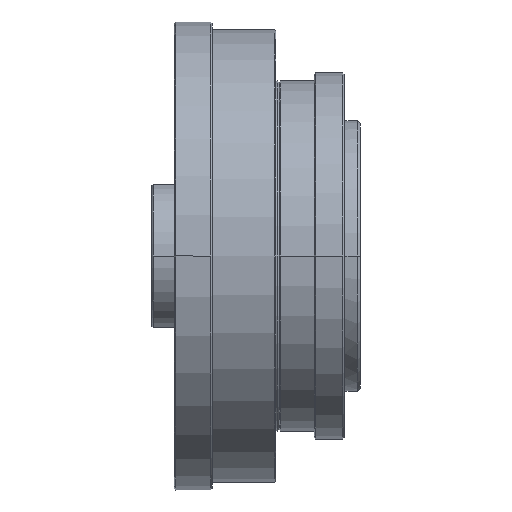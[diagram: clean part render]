
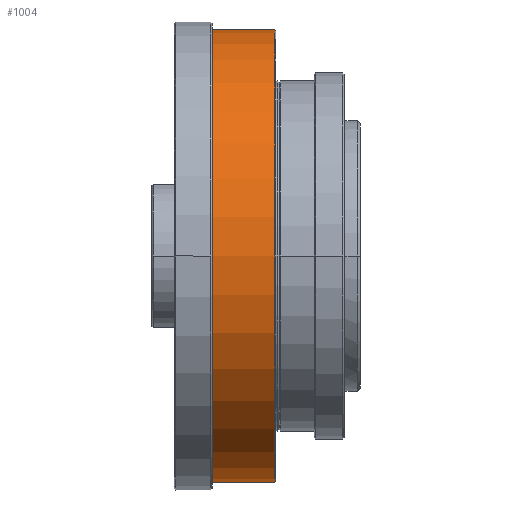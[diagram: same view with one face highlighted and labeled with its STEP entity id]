
A CAD part, front view. The second image highlights one B-rep face of the part: STEP entity #1004.
In plain terms, the highlighted cylindrical face has radius 71 mm (diameter 142 mm), a partial arc.
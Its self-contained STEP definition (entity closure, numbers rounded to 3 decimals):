
#1004=ADVANCED_FACE('NONE',(#2290),#2291,.T.);
#2290=FACE_OUTER_BOUND('',#4195,.T.);
#2291=CYLINDRICAL_SURFACE('',#4196,71.0);
#4195=EDGE_LOOP('',(#7137,#7138,#7139,#7140,#7141));
#4196=AXIS2_PLACEMENT_3D('',#7142,#7143,#7144);
#7137=ORIENTED_EDGE('',*,*,#9633,.F.);
#7138=ORIENTED_EDGE('',*,*,#10483,.T.);
#7139=ORIENTED_EDGE('',*,*,#9637,.T.);
#7140=ORIENTED_EDGE('',*,*,#9634,.T.);
#7141=ORIENTED_EDGE('',*,*,#10467,.F.);
#7142=CARTESIAN_POINT('',(20.3,0.0,0.0));
#7143=DIRECTION('',(-1.0,0.0,0.0));
#7144=DIRECTION('',(0.0,0.0,-1.0));
#9633=EDGE_CURVE('NONE',#11437,#11414,#11439,.T.);
#9634=EDGE_CURVE('NONE',#11440,#11412,#11441,.T.);
#9637=EDGE_CURVE('NONE',#11444,#11440,#11445,.T.);
#10467=EDGE_CURVE('NONE',#11414,#11412,#12794,.T.);
#10483=EDGE_CURVE('NONE',#11437,#11444,#12810,.T.);
#11412=VERTEX_POINT('NONE',#14085);
#11414=VERTEX_POINT('NONE',#14088);
#11437=VERTEX_POINT('NONE',#14116);
#11439=LINE('',#14118,#14119);
#11440=VERTEX_POINT('NONE',#14120);
#11441=LINE('',#14121,#14122);
#11444=VERTEX_POINT('NONE',#14125);
#11445=CIRCLE('',#14126,71.0);
#12794=CIRCLE('',#15773,71.);
#12810=CIRCLE('',#15829,71.0);
#14085=CARTESIAN_POINT('',(31.7,0.0,-71.));
#14088=CARTESIAN_POINT('',(31.7,0.,71.));
#14116=CARTESIAN_POINT('',(11.5,0.,71.0));
#14118=CARTESIAN_POINT('',(20.3,0.,71.0));
#14119=VECTOR('',#17167,1000.0);
#14120=CARTESIAN_POINT('',(11.5,0.0,-71.0));
#14121=CARTESIAN_POINT('',(20.3,0.0,-71.0));
#14122=VECTOR('',#17168,1000.0);
#14125=CARTESIAN_POINT('',(11.5,-71.0,0.));
#14126=AXIS2_PLACEMENT_3D('',#17172,#17173,#17174);
#15773=AXIS2_PLACEMENT_3D('',#18520,#18521,#18522);
#15829=AXIS2_PLACEMENT_3D('',#18532,#18533,#18534);
#17167=DIRECTION('',(1.0,0.0,0.0));
#17168=DIRECTION('',(1.0,0.0,0.0));
#17172=CARTESIAN_POINT('',(11.5,0.0,0.0));
#17173=DIRECTION('',(1.0,0.0,0.0));
#17174=DIRECTION('',(0.0,0.0,-1.0));
#18520=CARTESIAN_POINT('',(31.7,0.0,0.0));
#18521=DIRECTION('',(1.0,0.,0.0));
#18522=DIRECTION('',(0.,-1.0,0.0));
#18532=CARTESIAN_POINT('',(11.5,0.0,0.0));
#18533=DIRECTION('',(1.0,0.0,0.0));
#18534=DIRECTION('',(0.0,0.0,-1.0));
